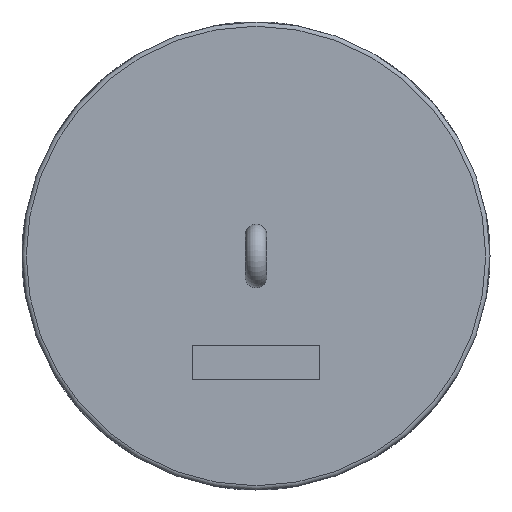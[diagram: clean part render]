
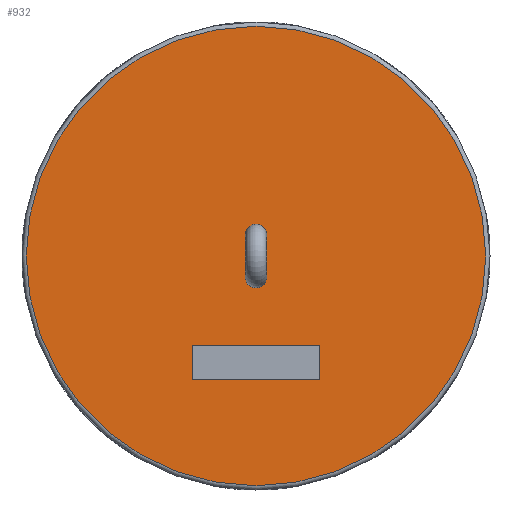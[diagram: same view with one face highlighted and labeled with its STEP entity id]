
A CAD part, front view. The second image highlights one B-rep face of the part: STEP entity #932.
In plain terms, the highlighted planar face has unit normal (0, -1, 0).
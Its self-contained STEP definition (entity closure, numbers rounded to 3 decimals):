
#30=FACE_BOUND('',#256,.T.);
#31=FACE_BOUND('',#257,.T.);
#78=CIRCLE('',#1009,2.5);
#87=CIRCLE('',#1028,54.);
#192=FACE_OUTER_BOUND('',#255,.T.);
#255=EDGE_LOOP('',(#803));
#256=EDGE_LOOP('',(#804,#805,#806,#807));
#257=EDGE_LOOP('',(#808));
#274=LINE('',#1291,#338);
#278=LINE('',#1299,#342);
#281=LINE('',#1305,#345);
#284=LINE('',#1310,#348);
#338=VECTOR('',#1059,10.);
#342=VECTOR('',#1065,10.);
#345=VECTOR('',#1070,10.);
#348=VECTOR('',#1075,10.);
#402=VERTEX_POINT('',#1289);
#403=VERTEX_POINT('',#1290);
#406=VERTEX_POINT('',#1298);
#408=VERTEX_POINT('',#1304);
#443=VERTEX_POINT('',#1493);
#481=VERTEX_POINT('',#1868);
#490=EDGE_CURVE('',#402,#403,#274,.T.);
#494=EDGE_CURVE('',#406,#402,#278,.T.);
#497=EDGE_CURVE('',#408,#406,#281,.T.);
#500=EDGE_CURVE('',#403,#408,#284,.T.);
#551=EDGE_CURVE('',#443,#443,#78,.T.);
#598=EDGE_CURVE('',#481,#481,#87,.T.);
#803=ORIENTED_EDGE('',*,*,#598,.F.);
#804=ORIENTED_EDGE('',*,*,#490,.T.);
#805=ORIENTED_EDGE('',*,*,#500,.T.);
#806=ORIENTED_EDGE('',*,*,#497,.T.);
#807=ORIENTED_EDGE('',*,*,#494,.T.);
#808=ORIENTED_EDGE('',*,*,#551,.T.);
#889=PLANE('',#1029);
#932=ADVANCED_FACE('',(#192,#30,#31),#889,.F.);
#1009=AXIS2_PLACEMENT_3D('',#1495,#1173,#1174);
#1028=AXIS2_PLACEMENT_3D('',#1870,#1225,#1226);
#1029=AXIS2_PLACEMENT_3D('',#1871,#1227,#1228);
#1059=DIRECTION('',(0.,0.,-1.));
#1065=DIRECTION('',(1.,0.,0.));
#1070=DIRECTION('',(0.,0.,1.));
#1075=DIRECTION('',(-1.,0.,0.));
#1173=DIRECTION('center_axis',(0.,1.,0.));
#1174=DIRECTION('ref_axis',(1.,0.,0.));
#1225=DIRECTION('center_axis',(0.,1.,0.));
#1226=DIRECTION('ref_axis',(1.,0.,0.));
#1227=DIRECTION('center_axis',(0.,1.,0.));
#1228=DIRECTION('ref_axis',(0.,0.,1.));
#1289=CARTESIAN_POINT('',(15.,0.,-21.));
#1290=CARTESIAN_POINT('',(15.,0.,-29.));
#1291=CARTESIAN_POINT('',(15.,0.,-10.5));
#1298=CARTESIAN_POINT('',(-15.,0.,-21.));
#1299=CARTESIAN_POINT('',(-7.5,0.,-21.));
#1304=CARTESIAN_POINT('',(-15.,0.,-29.));
#1305=CARTESIAN_POINT('',(-15.,0.,-14.5));
#1310=CARTESIAN_POINT('',(7.5,0.,-29.));
#1493=CARTESIAN_POINT('',(-2.5,0.,0.));
#1495=CARTESIAN_POINT('Origin',(0.,0.,0.));
#1868=CARTESIAN_POINT('',(0.,0.,-54.));
#1870=CARTESIAN_POINT('Origin',(0.,0.,0.));
#1871=CARTESIAN_POINT('Origin',(0.,0.,0.));
